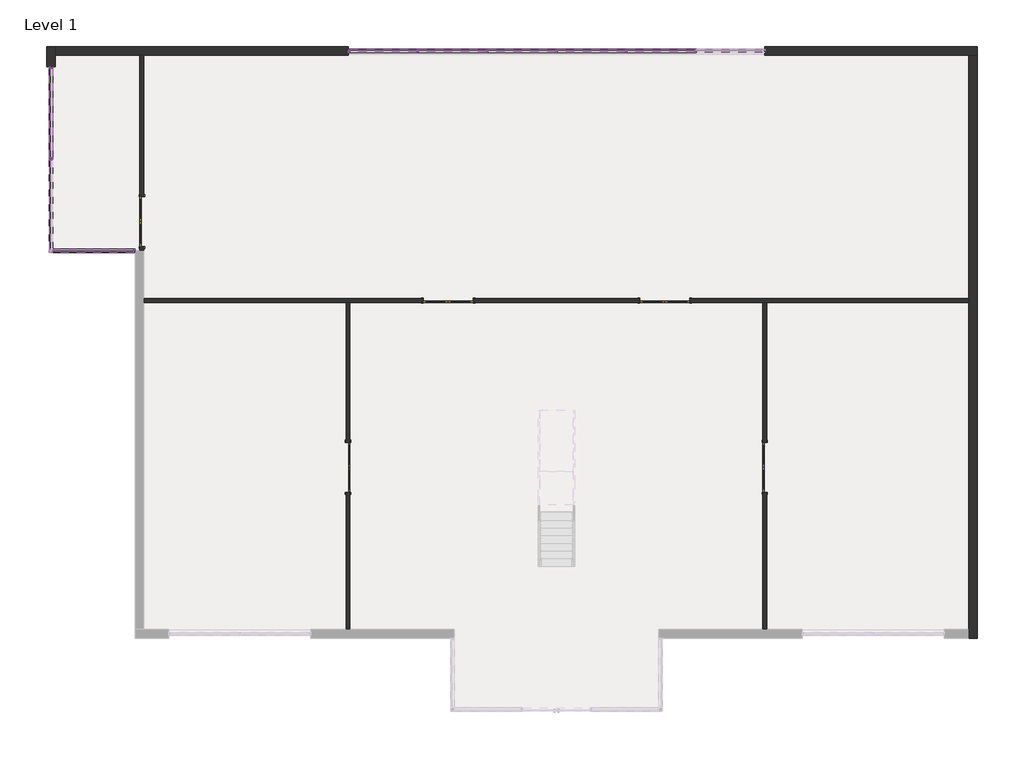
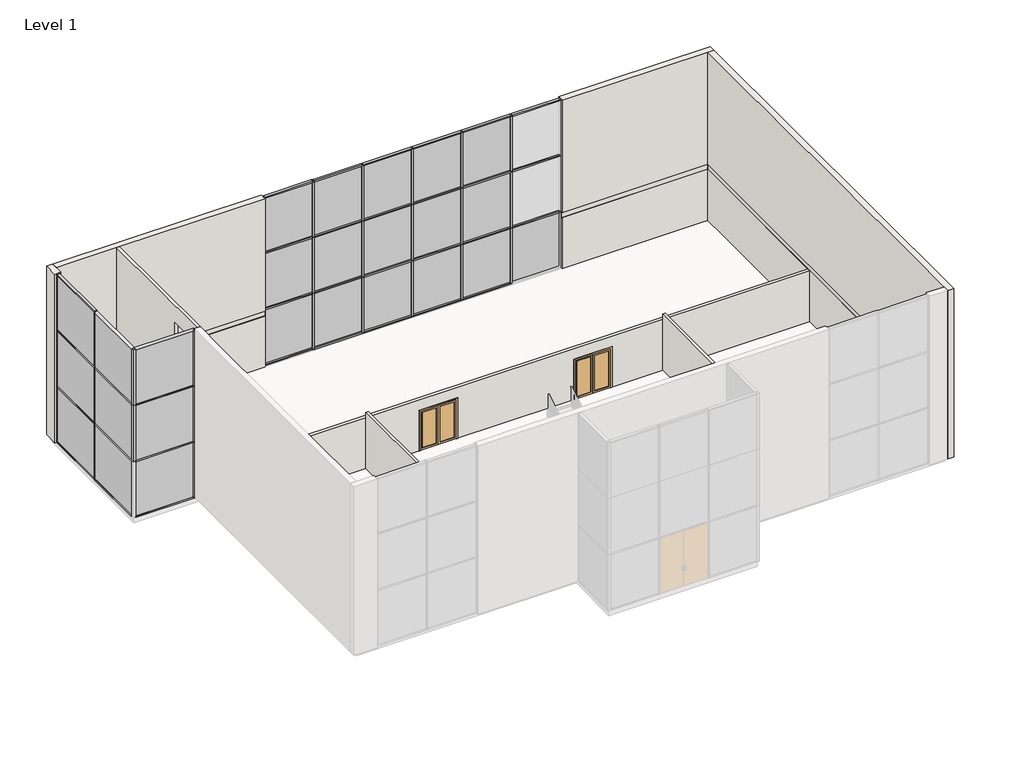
# One storey, part 2 of 3: 60 members, 25 plates, 7 walls, 5 doors.
"""IFC4 building model written with IfcOpenShell, lengths in millimetres."""

from ifc_helpers import new_model, si_unit, frame, origin, place, context, project, spatial, polyline, outline, extrude, faceted_brep, transform, mapped, element, save
from components import door_cb31edf2, door_3f2f997e, member_092dde94, member_3f395ae9, member_65a3e7b2, member_eaba9652, member_4955b6a0, member_9c76a069, member_1f84ea9c, member_2d82c926, member_728bf22d, member_0c17b8a1, member_268c476f, system_panel_glazed_e83c8d5a, system_panel_glazed_b0f97b96, system_panel_glazed_f5e36016, system_panel_glazed_d42ca814, system_panel_glazed_c65d631f, system_panel_glazed_26911bd7, system_panel_glazed_bd540f61, system_panel_glazed_3bf1a00e

model = new_model("IFC4")

# Units and contexts
model_context = context("Model", 3, world=origin())
ifc_project = project(units=[si_unit("LENGTHUNIT", "METRE", prefix="MILLI")], contexts=[model_context])

# Site, building, storey
site = spatial("IfcSite", under=ifc_project)
building = spatial("IfcBuilding", under=site)
storey = spatial("IfcBuildingStorey", under=building, Name="Level 1", Elevation=0.0)

# Doors
placement = place(None, origin())
door_shape = door_cb31edf2(model_context)
element("IfcDoor", 1, ObjectType="Door-Double-Glass : 72\" x 84\"", at=placement, inside=storey, context=model_context, shape_type="MappedRepresentation", body=[
    mapped(door_shape, transform((-18248.748632, 9505.1983604, 0.0), x_axis=(0.0, 1.0, 0.0), y_axis=(-1.0, 0.0, 0.0), z_axis=(0.0, 0.0, 1.0))),
])
door_2_shape = door_3f2f997e(model_context)
element("IfcDoor", 2, ObjectType="Door-Double-Glass : 72\" x 84\"", at=placement, inside=storey, context=model_context, shape_type="MappedRepresentation", body=[
    mapped(door_2_shape, transform((-10711.298632, 513.5983604, 0.0), x_axis=(0.0, -1.0, 0.0), y_axis=(1.0, 0.0, 0.0), z_axis=(0.0, 0.0, 1.0))),
])
element("IfcDoor", 3, ObjectType="Door-Double-Glass : 72\" x 84\"", at=placement, inside=storey, context=model_context, shape_type="MappedRepresentation", body=[
    mapped(door_2_shape, transform((4533.463868, 513.5983604, 0.0), x_axis=(0.0, 1.0, 0.0), y_axis=(-1.0, 0.0, 0.0), z_axis=(0.0, 0.0, 1.0))),
])
element("IfcDoor", 4, ObjectType="Door-Double-Glass : 72\" x 84\"", at=placement, inside=storey, context=model_context, shape_type="MappedRepresentation", body=[
    mapped(door_2_shape, transform((-7051.317382, 6611.9796104, 0.0), x_axis=(-1.0, 0.0, 0.0), y_axis=(0.0, -1.0, 0.0), z_axis=(0.0, 0.0, 1.0))),
])
element("IfcDoor", 5, ObjectType="Door-Double-Glass : 72\" x 84\"", at=placement, inside=storey, context=model_context, shape_type="MappedRepresentation", body=[
    mapped(door_2_shape, transform((873.482618, 6611.9796104, 0.0), x_axis=(-1.0, 0.0, 0.0), y_axis=(0.0, -1.0, 0.0), z_axis=(0.0, 0.0, 1.0))),
])

# Members
member_shape = member_092dde94(model_context)
element("IfcMember", 6, ObjectType="Quad Corner Mullion : 5\" x 5\" Quad Corner", at=placement, inside=storey, context=model_context, shape_type="MappedRepresentation", body=[
    mapped(member_shape, transform((-21580.117382, 8438.3983604, 3048.0), x_axis=(-1.0, 0.0, 0.0), y_axis=(0.0, 1.0, 0.0), z_axis=(0.0, 0.0, -1.0))),
])
element("IfcMember", 7, ObjectType="Quad Corner Mullion : 5\" x 5\" Quad Corner", at=placement, inside=storey, context=model_context, shape_type="MappedRepresentation", body=[
    mapped(member_shape, transform((-21580.117382, 8438.3983604, 6096.0), x_axis=(-1.0, 0.0, 0.0), y_axis=(0.0, 1.0, 0.0), z_axis=(0.0, 0.0, -1.0))),
])
member_2_shape = member_3f395ae9(model_context)
element("IfcMember", 8, ObjectType="Rectangular Mullion : 2.5\" x 5\" rectangular", at=placement, inside=storey, context=model_context, shape_type="MappedRepresentation", body=[
    mapped(member_2_shape, transform((-18484.492382, 8438.3983604, 9144.0), x_axis=(1.0, 0.0, 0.0), y_axis=(0.0, 1.0, 0.0), z_axis=(0.0, 0.0, 1.0))),
])
element("IfcMember", 9, ObjectType="Rectangular Mullion : 2.5\" x 5\" rectangular", at=placement, inside=storey, context=model_context, shape_type="MappedRepresentation", body=[
    mapped(member_2_shape, transform((-18484.492382, 8438.3983604, 3048.0), x_axis=(1.0, 0.0, 0.0), y_axis=(0.0, 1.0, 0.0), z_axis=(0.0, 0.0, 1.0))),
])
member_3_shape = member_65a3e7b2(model_context)
element("IfcMember", 10, ObjectType="Rectangular Mullion : 2.5\" x 5\" rectangular", at=placement, inside=storey, context=model_context, shape_type="MappedRepresentation", body=[
    mapped(member_3_shape, transform((-10645.417382, 15753.5983604, 9144.0), x_axis=(0.0, 0.0, 1.0), y_axis=(0.0, 1.0, 0.0), z_axis=(-1.0, 0.0, 0.0))),
])
element("IfcMember", 11, ObjectType="Rectangular Mullion : 2.5\" x 5\" rectangular", at=placement, inside=storey, context=model_context, shape_type="MappedRepresentation", body=[
    mapped(member_3_shape, transform((2022.8326178, 15753.5983604, 9144.0), x_axis=(0.0, 0.0, 1.0), y_axis=(0.0, 1.0, 0.0), z_axis=(-1.0, 0.0, 0.0))),
])
element("IfcMember", 12, ObjectType="Rectangular Mullion : 2.5\" x 5\" rectangular", at=placement, inside=storey, context=model_context, shape_type="MappedRepresentation", body=[
    mapped(member_3_shape, transform((-8200.6673818, 15753.5983604, 0.0), x_axis=(0.0, 0.0, -1.0), y_axis=(0.0, 1.0, 0.0), z_axis=(1.0, 0.0, 0.0))),
])
member_4_shape = member_eaba9652(model_context)
element("IfcMember", 13, ObjectType="Rectangular Mullion : 2.5\" x 5\" rectangular", at=placement, inside=storey, context=model_context, shape_type="MappedRepresentation", body=[
    mapped(member_4_shape, transform((1991.0826178, 15753.5983604, 0.0), x_axis=(-1.0, 0.0, 0.0), y_axis=(0.0, 1.0, 0.0), z_axis=(0.0, 0.0, -1.0))),
])
element("IfcMember", 14, ObjectType="Rectangular Mullion : 2.5\" x 5\" rectangular", at=placement, inside=storey, context=model_context, shape_type="MappedRepresentation", body=[
    mapped(member_4_shape, transform((-548.9173821, 15753.5983604, 0.0), x_axis=(-1.0, 0.0, 0.0), y_axis=(0.0, 1.0, 0.0), z_axis=(0.0, 0.0, -1.0))),
])
element("IfcMember", 15, ObjectType="Rectangular Mullion : 2.5\" x 5\" rectangular", at=placement, inside=storey, context=model_context, shape_type="MappedRepresentation", body=[
    mapped(member_4_shape, transform((-3088.917382, 15753.5983604, 0.0), x_axis=(-1.0, 0.0, 0.0), y_axis=(0.0, 1.0, 0.0), z_axis=(0.0, 0.0, -1.0))),
])
element("IfcMember", 16, ObjectType="Rectangular Mullion : 2.5\" x 5\" rectangular", at=placement, inside=storey, context=model_context, shape_type="MappedRepresentation", body=[
    mapped(member_4_shape, transform((-5628.9173819, 15753.5983604, 0.0), x_axis=(-1.0, 0.0, 0.0), y_axis=(0.0, 1.0, 0.0), z_axis=(0.0, 0.0, -1.0))),
])
element("IfcMember", 17, ObjectType="Rectangular Mullion : 2.5\" x 5\" rectangular", at=placement, inside=storey, context=model_context, shape_type="MappedRepresentation", body=[
    mapped(member_4_shape, transform((-8168.9173818, 15753.5983604, 0.0), x_axis=(-1.0, 0.0, 0.0), y_axis=(0.0, 1.0, 0.0), z_axis=(0.0, 0.0, -1.0))),
])
element("IfcMember", 18, ObjectType="Rectangular Mullion : 2.5\" x 5\" rectangular", at=placement, inside=storey, context=model_context, shape_type="MappedRepresentation", body=[
    mapped(member_4_shape, transform((-21580.117382, 11807.0733604, 0.0), x_axis=(0.0, -1.0, 0.0), y_axis=(-1.0, 0.0, 0.0), z_axis=(0.0, 0.0, -1.0))),
])
member_5_shape = member_4955b6a0(model_context)
element("IfcMember", 19, ObjectType="Rectangular Mullion : 2.5\" x 5\" rectangular", at=placement, inside=storey, context=model_context, shape_type="MappedRepresentation", body=[
    mapped(member_5_shape, transform((2022.8326178, 15753.5983604, 3048.0), x_axis=(0.0, 0.0, 1.0), y_axis=(0.0, 1.0, 0.0), z_axis=(-1.0, 0.0, 0.0))),
])
element("IfcMember", 20, ObjectType="Rectangular Mullion : 2.5\" x 5\" rectangular", at=placement, inside=storey, context=model_context, shape_type="MappedRepresentation", body=[
    mapped(member_5_shape, transform((-10645.417382, 15753.5983604, 3048.0), x_axis=(0.0, 0.0, 1.0), y_axis=(0.0, 1.0, 0.0), z_axis=(-1.0, 0.0, 0.0))),
])
element("IfcMember", 21, ObjectType="Rectangular Mullion : 2.5\" x 5\" rectangular", at=placement, inside=storey, context=model_context, shape_type="MappedRepresentation", body=[
    mapped(member_5_shape, transform((2022.8326178, 15753.5983604, 6096.0), x_axis=(0.0, 0.0, 1.0), y_axis=(0.0, 1.0, 0.0), z_axis=(-1.0, 0.0, 0.0))),
])
element("IfcMember", 22, ObjectType="Rectangular Mullion : 2.5\" x 5\" rectangular", at=placement, inside=storey, context=model_context, shape_type="MappedRepresentation", body=[
    mapped(member_5_shape, transform((-10645.417382, 15753.5983604, 6096.0), x_axis=(0.0, 0.0, 1.0), y_axis=(0.0, 1.0, 0.0), z_axis=(-1.0, 0.0, 0.0))),
])
member_6_shape = member_9c76a069(model_context)
element("IfcMember", 23, ObjectType="Rectangular Mullion : 2.5\" x 5\" rectangular", at=placement, inside=storey, context=model_context, shape_type="MappedRepresentation", body=[
    mapped(member_6_shape, transform((-517.1673821, 15753.5983604, 3048.0), x_axis=(0.0, 0.0, 1.0), y_axis=(0.0, 1.0, 0.0), z_axis=(-1.0, 0.0, 0.0))),
])
element("IfcMember", 24, ObjectType="Rectangular Mullion : 2.5\" x 5\" rectangular", at=placement, inside=storey, context=model_context, shape_type="MappedRepresentation", body=[
    mapped(member_6_shape, transform((-3057.167382, 15753.5983604, 3048.0), x_axis=(0.0, 0.0, 1.0), y_axis=(0.0, 1.0, 0.0), z_axis=(-1.0, 0.0, 0.0))),
])
element("IfcMember", 25, ObjectType="Rectangular Mullion : 2.5\" x 5\" rectangular", at=placement, inside=storey, context=model_context, shape_type="MappedRepresentation", body=[
    mapped(member_6_shape, transform((-5597.1673819, 15753.5983604, 3048.0), x_axis=(0.0, 0.0, 1.0), y_axis=(0.0, 1.0, 0.0), z_axis=(-1.0, 0.0, 0.0))),
])
element("IfcMember", 26, ObjectType="Rectangular Mullion : 2.5\" x 5\" rectangular", at=placement, inside=storey, context=model_context, shape_type="MappedRepresentation", body=[
    mapped(member_6_shape, transform((-8137.1673818, 15753.5983604, 3048.0), x_axis=(0.0, 0.0, 1.0), y_axis=(0.0, 1.0, 0.0), z_axis=(-1.0, 0.0, 0.0))),
])
element("IfcMember", 27, ObjectType="Rectangular Mullion : 2.5\" x 5\" rectangular", at=placement, inside=storey, context=model_context, shape_type="MappedRepresentation", body=[
    mapped(member_6_shape, transform((-517.1673821, 15753.5983604, 6096.0), x_axis=(0.0, 0.0, 1.0), y_axis=(0.0, 1.0, 0.0), z_axis=(-1.0, 0.0, 0.0))),
])
element("IfcMember", 28, ObjectType="Rectangular Mullion : 2.5\" x 5\" rectangular", at=placement, inside=storey, context=model_context, shape_type="MappedRepresentation", body=[
    mapped(member_6_shape, transform((-3057.167382, 15753.5983604, 6096.0), x_axis=(0.0, 0.0, 1.0), y_axis=(0.0, 1.0, 0.0), z_axis=(-1.0, 0.0, 0.0))),
])
element("IfcMember", 29, ObjectType="Rectangular Mullion : 2.5\" x 5\" rectangular", at=placement, inside=storey, context=model_context, shape_type="MappedRepresentation", body=[
    mapped(member_6_shape, transform((-5597.1673819, 15753.5983604, 6096.0), x_axis=(0.0, 0.0, 1.0), y_axis=(0.0, 1.0, 0.0), z_axis=(-1.0, 0.0, 0.0))),
])
element("IfcMember", 30, ObjectType="Rectangular Mullion : 2.5\" x 5\" rectangular", at=placement, inside=storey, context=model_context, shape_type="MappedRepresentation", body=[
    mapped(member_6_shape, transform((-8137.1673818, 15753.5983604, 6096.0), x_axis=(0.0, 0.0, 1.0), y_axis=(0.0, 1.0, 0.0), z_axis=(-1.0, 0.0, 0.0))),
])
member_7_shape = member_1f84ea9c(model_context)
element("IfcMember", 31, ObjectType="Rectangular Mullion : 2.5\" x 5\" rectangular", at=placement, inside=storey, context=model_context, shape_type="MappedRepresentation", body=[
    mapped(member_7_shape, transform((1959.3326178, 15753.5983604, 0.0), x_axis=(0.0, 0.0, -1.0), y_axis=(0.0, 1.0, 0.0), z_axis=(1.0, 0.0, 0.0))),
])
element("IfcMember", 32, ObjectType="Rectangular Mullion : 2.5\" x 5\" rectangular", at=placement, inside=storey, context=model_context, shape_type="MappedRepresentation", body=[
    mapped(member_7_shape, transform((-580.6673821, 15753.5983604, 0.0), x_axis=(0.0, 0.0, -1.0), y_axis=(0.0, 1.0, 0.0), z_axis=(1.0, 0.0, 0.0))),
])
element("IfcMember", 33, ObjectType="Rectangular Mullion : 2.5\" x 5\" rectangular", at=placement, inside=storey, context=model_context, shape_type="MappedRepresentation", body=[
    mapped(member_7_shape, transform((-3120.667382, 15753.5983604, 0.0), x_axis=(0.0, 0.0, -1.0), y_axis=(0.0, 1.0, 0.0), z_axis=(1.0, 0.0, 0.0))),
])
element("IfcMember", 34, ObjectType="Rectangular Mullion : 2.5\" x 5\" rectangular", at=placement, inside=storey, context=model_context, shape_type="MappedRepresentation", body=[
    mapped(member_7_shape, transform((-5660.6673819, 15753.5983604, 0.0), x_axis=(0.0, 0.0, -1.0), y_axis=(0.0, 1.0, 0.0), z_axis=(1.0, 0.0, 0.0))),
])
element("IfcMember", 35, ObjectType="Rectangular Mullion : 2.5\" x 5\" rectangular", at=placement, inside=storey, context=model_context, shape_type="MappedRepresentation", body=[
    mapped(member_7_shape, transform((-517.1673821, 15753.5983604, 9144.0), x_axis=(0.0, 0.0, 1.0), y_axis=(0.0, 1.0, 0.0), z_axis=(-1.0, 0.0, 0.0))),
])
element("IfcMember", 36, ObjectType="Rectangular Mullion : 2.5\" x 5\" rectangular", at=placement, inside=storey, context=model_context, shape_type="MappedRepresentation", body=[
    mapped(member_7_shape, transform((-3057.167382, 15753.5983604, 9144.0), x_axis=(0.0, 0.0, 1.0), y_axis=(0.0, 1.0, 0.0), z_axis=(-1.0, 0.0, 0.0))),
])
element("IfcMember", 37, ObjectType="Rectangular Mullion : 2.5\" x 5\" rectangular", at=placement, inside=storey, context=model_context, shape_type="MappedRepresentation", body=[
    mapped(member_7_shape, transform((-5597.1673819, 15753.5983604, 9144.0), x_axis=(0.0, 0.0, 1.0), y_axis=(0.0, 1.0, 0.0), z_axis=(-1.0, 0.0, 0.0))),
])
element("IfcMember", 38, ObjectType="Rectangular Mullion : 2.5\" x 5\" rectangular", at=placement, inside=storey, context=model_context, shape_type="MappedRepresentation", body=[
    mapped(member_7_shape, transform((-8137.1673818, 15753.5983604, 9144.0), x_axis=(0.0, 0.0, 1.0), y_axis=(0.0, 1.0, 0.0), z_axis=(-1.0, 0.0, 0.0))),
])
element("IfcMember", 39, ObjectType="Rectangular Mullion : 2.5\" x 5\" rectangular", at=placement, inside=storey, context=model_context, shape_type="MappedRepresentation", body=[
    mapped(member_4_shape, transform((1991.0826178, 15753.5983604, 3048.0), x_axis=(-1.0, 0.0, 0.0), y_axis=(0.0, 1.0, 0.0), z_axis=(0.0, 0.0, -1.0))),
])
element("IfcMember", 40, ObjectType="Rectangular Mullion : 2.5\" x 5\" rectangular", at=placement, inside=storey, context=model_context, shape_type="MappedRepresentation", body=[
    mapped(member_4_shape, transform((-548.9173821, 15753.5983604, 3048.0), x_axis=(-1.0, 0.0, 0.0), y_axis=(0.0, 1.0, 0.0), z_axis=(0.0, 0.0, -1.0))),
])
element("IfcMember", 41, ObjectType="Rectangular Mullion : 2.5\" x 5\" rectangular", at=placement, inside=storey, context=model_context, shape_type="MappedRepresentation", body=[
    mapped(member_4_shape, transform((-3088.917382, 15753.5983604, 3048.0), x_axis=(-1.0, 0.0, 0.0), y_axis=(0.0, 1.0, 0.0), z_axis=(0.0, 0.0, -1.0))),
])
element("IfcMember", 42, ObjectType="Rectangular Mullion : 2.5\" x 5\" rectangular", at=placement, inside=storey, context=model_context, shape_type="MappedRepresentation", body=[
    mapped(member_4_shape, transform((-5628.9173819, 15753.5983604, 3048.0), x_axis=(-1.0, 0.0, 0.0), y_axis=(0.0, 1.0, 0.0), z_axis=(0.0, 0.0, -1.0))),
])
element("IfcMember", 43, ObjectType="Rectangular Mullion : 2.5\" x 5\" rectangular", at=placement, inside=storey, context=model_context, shape_type="MappedRepresentation", body=[
    mapped(member_4_shape, transform((-8168.9173818, 15753.5983604, 3048.0), x_axis=(-1.0, 0.0, 0.0), y_axis=(0.0, 1.0, 0.0), z_axis=(0.0, 0.0, -1.0))),
])
element("IfcMember", 44, ObjectType="Rectangular Mullion : 2.5\" x 5\" rectangular", at=placement, inside=storey, context=model_context, shape_type="MappedRepresentation", body=[
    mapped(member_4_shape, transform((-21580.117382, 11807.0733604, 3048.0), x_axis=(0.0, -1.0, 0.0), y_axis=(-1.0, 0.0, 0.0), z_axis=(0.0, 0.0, -1.0))),
])
element("IfcMember", 45, ObjectType="Rectangular Mullion : 2.5\" x 5\" rectangular", at=placement, inside=storey, context=model_context, shape_type="MappedRepresentation", body=[
    mapped(member_4_shape, transform((1991.0826178, 15753.5983604, 6096.0), x_axis=(-1.0, 0.0, 0.0), y_axis=(0.0, 1.0, 0.0), z_axis=(0.0, 0.0, -1.0))),
])
element("IfcMember", 46, ObjectType="Rectangular Mullion : 2.5\" x 5\" rectangular", at=placement, inside=storey, context=model_context, shape_type="MappedRepresentation", body=[
    mapped(member_4_shape, transform((-548.9173821, 15753.5983604, 6096.0), x_axis=(-1.0, 0.0, 0.0), y_axis=(0.0, 1.0, 0.0), z_axis=(0.0, 0.0, -1.0))),
])
element("IfcMember", 47, ObjectType="Rectangular Mullion : 2.5\" x 5\" rectangular", at=placement, inside=storey, context=model_context, shape_type="MappedRepresentation", body=[
    mapped(member_4_shape, transform((-3088.917382, 15753.5983604, 6096.0), x_axis=(-1.0, 0.0, 0.0), y_axis=(0.0, 1.0, 0.0), z_axis=(0.0, 0.0, -1.0))),
])
element("IfcMember", 48, ObjectType="Rectangular Mullion : 2.5\" x 5\" rectangular", at=placement, inside=storey, context=model_context, shape_type="MappedRepresentation", body=[
    mapped(member_4_shape, transform((-5628.9173819, 15753.5983604, 6096.0), x_axis=(-1.0, 0.0, 0.0), y_axis=(0.0, 1.0, 0.0), z_axis=(0.0, 0.0, -1.0))),
])
element("IfcMember", 49, ObjectType="Rectangular Mullion : 2.5\" x 5\" rectangular", at=placement, inside=storey, context=model_context, shape_type="MappedRepresentation", body=[
    mapped(member_4_shape, transform((-8168.9173818, 15753.5983604, 6096.0), x_axis=(-1.0, 0.0, 0.0), y_axis=(0.0, 1.0, 0.0), z_axis=(0.0, 0.0, -1.0))),
])
element("IfcMember", 50, ObjectType="Rectangular Mullion : 2.5\" x 5\" rectangular", at=placement, inside=storey, context=model_context, shape_type="MappedRepresentation", body=[
    mapped(member_4_shape, transform((-21580.117382, 11807.0733604, 6096.0), x_axis=(0.0, -1.0, 0.0), y_axis=(-1.0, 0.0, 0.0), z_axis=(0.0, 0.0, -1.0))),
])
element("IfcMember", 51, ObjectType="Rectangular Mullion : 2.5\" x 5\" rectangular", at=placement, inside=storey, context=model_context, shape_type="MappedRepresentation", body=[
    mapped(member_2_shape, transform((-21580.117382, 15175.7483604, 9144.0), x_axis=(0.0, 1.0, 0.0), y_axis=(-1.0, 0.0, 0.0), z_axis=(0.0, 0.0, 1.0))),
])
element("IfcMember", 52, ObjectType="Rectangular Mullion : 2.5\" x 5\" rectangular", at=placement, inside=storey, context=model_context, shape_type="MappedRepresentation", body=[
    mapped(member_2_shape, transform((-10708.917382, 15753.5983604, 0.0), x_axis=(-1.0, 0.0, 0.0), y_axis=(0.0, 1.0, 0.0), z_axis=(0.0, 0.0, -1.0))),
])
element("IfcMember", 53, ObjectType="Rectangular Mullion : 2.5\" x 5\" rectangular", at=placement, inside=storey, context=model_context, shape_type="MappedRepresentation", body=[
    mapped(member_2_shape, transform((-10708.917382, 15753.5983604, 3048.0), x_axis=(-1.0, 0.0, 0.0), y_axis=(0.0, 1.0, 0.0), z_axis=(0.0, 0.0, -1.0))),
])
element("IfcMember", 54, ObjectType="Rectangular Mullion : 2.5\" x 5\" rectangular", at=placement, inside=storey, context=model_context, shape_type="MappedRepresentation", body=[
    mapped(member_2_shape, transform((-10708.917382, 15753.5983604, 6096.0), x_axis=(-1.0, 0.0, 0.0), y_axis=(0.0, 1.0, 0.0), z_axis=(0.0, 0.0, -1.0))),
])
element("IfcMember", 55, ObjectType="Rectangular Mullion : 2.5\" x 5\" rectangular", at=placement, inside=storey, context=model_context, shape_type="MappedRepresentation", body=[
    mapped(member_2_shape, transform((-21580.117382, 15175.7483604, 3048.0), x_axis=(0.0, 1.0, 0.0), y_axis=(-1.0, 0.0, 0.0), z_axis=(0.0, 0.0, 1.0))),
])
element("IfcMember", 56, ObjectType="Rectangular Mullion : 2.5\" x 5\" rectangular", at=placement, inside=storey, context=model_context, shape_type="MappedRepresentation", body=[
    mapped(member_2_shape, transform((-21580.117382, 15175.7483604, 6096.0), x_axis=(0.0, 1.0, 0.0), y_axis=(-1.0, 0.0, 0.0), z_axis=(0.0, 0.0, 1.0))),
])
element("IfcMember", 57, ObjectType="Rectangular Mullion : 2.5\" x 5\" rectangular", at=placement, inside=storey, context=model_context, shape_type="MappedRepresentation", body=[
    mapped(member_2_shape, transform((-18484.492382, 8438.3983604, 6096.0), x_axis=(1.0, 0.0, 0.0), y_axis=(0.0, 1.0, 0.0), z_axis=(0.0, 0.0, 1.0))),
])
member_8_shape = member_2d82c926(model_context)
element("IfcMember", 58, ObjectType="Rectangular Mullion : 2.5\" x 5\" rectangular", at=placement, inside=storey, context=model_context, shape_type="MappedRepresentation", body=[
    mapped(member_8_shape, transform((-21580.117382, 11838.8233604, 9144.0), x_axis=(0.0, 0.0, 1.0), y_axis=(-1.0, 0.0, 0.0), z_axis=(0.0, -1.0, 0.0))),
])
element("IfcMember", 59, ObjectType="Rectangular Mullion : 2.5\" x 5\" rectangular", at=placement, inside=storey, context=model_context, shape_type="MappedRepresentation", body=[
    mapped(member_8_shape, transform((-21580.117382, 15112.2483604, 0.0), x_axis=(0.0, 0.0, -1.0), y_axis=(-1.0, 0.0, 0.0), z_axis=(0.0, 1.0, 0.0))),
])
element("IfcMember", 60, ObjectType="Rectangular Mullion : 2.5\" x 5\" rectangular", at=placement, inside=storey, context=model_context, shape_type="MappedRepresentation", body=[
    mapped(member_8_shape, transform((-21580.117382, 11775.3233604, 0.0), x_axis=(0.0, 0.0, -1.0), y_axis=(-1.0, 0.0, 0.0), z_axis=(0.0, 1.0, 0.0))),
])
member_9_shape = member_728bf22d(model_context)
element("IfcMember", 61, ObjectType="Rectangular Mullion : 2.5\" x 5\" rectangular", at=placement, inside=storey, context=model_context, shape_type="MappedRepresentation", body=[
    mapped(member_9_shape, transform((-21580.117382, 11838.8233604, 3048.0), x_axis=(0.0, 0.0, 1.0), y_axis=(-1.0, 0.0, 0.0), z_axis=(0.0, -1.0, 0.0))),
])
element("IfcMember", 62, ObjectType="Rectangular Mullion : 2.5\" x 5\" rectangular", at=placement, inside=storey, context=model_context, shape_type="MappedRepresentation", body=[
    mapped(member_9_shape, transform((-21580.117382, 11838.8233604, 6096.0), x_axis=(0.0, 0.0, 1.0), y_axis=(-1.0, 0.0, 0.0), z_axis=(0.0, -1.0, 0.0))),
])
member_10_shape = member_0c17b8a1(model_context)
element("IfcMember", 63, ObjectType="Rectangular Mullion : 2.5\" x 5\" rectangular", at=placement, inside=storey, context=model_context, shape_type="MappedRepresentation", body=[
    mapped(member_10_shape, transform((-18547.992382, 8438.3983604, 0.0), x_axis=(0.0, 0.0, -1.0), y_axis=(0.0, 1.0, 0.0), z_axis=(1.0, 0.0, 0.0))),
])
member_11_shape = member_268c476f(model_context)
element("IfcMember", 64, ObjectType="Rectangular Mullion : 2.5\" x 5\" rectangular", at=placement, inside=storey, context=model_context, shape_type="MappedRepresentation", body=[
    mapped(member_11_shape, transform((-21516.617382, 8438.3983604, 3048.0), x_axis=(0.0, 0.0, 1.0), y_axis=(0.0, 1.0, 0.0), z_axis=(-1.0, 0.0, 0.0))),
])
element("IfcMember", 65, ObjectType="Rectangular Mullion : 2.5\" x 5\" rectangular", at=placement, inside=storey, context=model_context, shape_type="MappedRepresentation", body=[
    mapped(member_11_shape, transform((-21516.617382, 8438.3983604, 6096.0), x_axis=(0.0, 0.0, 1.0), y_axis=(0.0, 1.0, 0.0), z_axis=(-1.0, 0.0, 0.0))),
])

# Plates
system_panel_glazed_shape = system_panel_glazed_e83c8d5a(model_context)
element("IfcPlate", 66, ObjectType="System Panel : Glazed", at=placement, inside=storey, context=model_context, shape_type="MappedRepresentation", body=[
    mapped(system_panel_glazed_shape, transform((3245.2076179, 15753.5983604, 63.5), x_axis=(-1.0, 0.0, 0.0), y_axis=(0.0, -1.0, 0.0), z_axis=(0.0, 0.0, 1.0))),
])
element("IfcPlate", 67, ObjectType="System Panel : Glazed", at=placement, inside=storey, context=model_context, shape_type="MappedRepresentation", body=[
    mapped(system_panel_glazed_shape, transform((-9423.0423819, 15753.5983604, 63.5), x_axis=(-1.0, 0.0, 0.0), y_axis=(0.0, -1.0, 0.0), z_axis=(0.0, 0.0, 1.0))),
])
element("IfcPlate", 68, ObjectType="System Panel : Glazed", at=placement, inside=storey, context=model_context, shape_type="MappedRepresentation", body=[
    mapped(system_panel_glazed_shape, transform((-9423.0423819, 15753.5983604, 6127.75), x_axis=(-1.0, 0.0, 0.0), y_axis=(0.0, -1.0, 0.0), z_axis=(0.0, 0.0, 1.0))),
])
system_panel_glazed_2_shape = system_panel_glazed_b0f97b96(model_context)
element("IfcPlate", 69, ObjectType="System Panel : Glazed", at=placement, inside=storey, context=model_context, shape_type="MappedRepresentation", body=[
    mapped(system_panel_glazed_2_shape, transform((721.0826179, 15753.5983604, 63.5), x_axis=(-1.0, 0.0, 0.0), y_axis=(0.0, -1.0, 0.0), z_axis=(0.0, 0.0, 1.0))),
])
element("IfcPlate", 70, ObjectType="System Panel : Glazed", at=placement, inside=storey, context=model_context, shape_type="MappedRepresentation", body=[
    mapped(system_panel_glazed_2_shape, transform((-1818.917382, 15753.5983604, 63.5), x_axis=(-1.0, 0.0, 0.0), y_axis=(0.0, -1.0, 0.0), z_axis=(0.0, 0.0, 1.0))),
])
element("IfcPlate", 71, ObjectType="System Panel : Glazed", at=placement, inside=storey, context=model_context, shape_type="MappedRepresentation", body=[
    mapped(system_panel_glazed_2_shape, transform((-4358.9173819, 15753.5983604, 63.5), x_axis=(-1.0, 0.0, 0.0), y_axis=(0.0, -1.0, 0.0), z_axis=(0.0, 0.0, 1.0))),
])
element("IfcPlate", 72, ObjectType="System Panel : Glazed", at=placement, inside=storey, context=model_context, shape_type="MappedRepresentation", body=[
    mapped(system_panel_glazed_2_shape, transform((-6898.9173818, 15753.5983604, 63.5), x_axis=(-1.0, 0.0, 0.0), y_axis=(0.0, -1.0, 0.0), z_axis=(0.0, 0.0, 1.0))),
])
element("IfcPlate", 73, ObjectType="System Panel : Glazed", at=placement, inside=storey, context=model_context, shape_type="MappedRepresentation", body=[
    mapped(system_panel_glazed_2_shape, transform((721.0826179, 15753.5983604, 6127.75), x_axis=(-1.0, 0.0, 0.0), y_axis=(0.0, -1.0, 0.0), z_axis=(0.0, 0.0, 1.0))),
])
element("IfcPlate", 74, ObjectType="System Panel : Glazed", at=placement, inside=storey, context=model_context, shape_type="MappedRepresentation", body=[
    mapped(system_panel_glazed_2_shape, transform((-1818.917382, 15753.5983604, 6127.75), x_axis=(-1.0, 0.0, 0.0), y_axis=(0.0, -1.0, 0.0), z_axis=(0.0, 0.0, 1.0))),
])
element("IfcPlate", 75, ObjectType="System Panel : Glazed", at=placement, inside=storey, context=model_context, shape_type="MappedRepresentation", body=[
    mapped(system_panel_glazed_2_shape, transform((-4358.9173819, 15753.5983604, 6127.75), x_axis=(-1.0, 0.0, 0.0), y_axis=(0.0, -1.0, 0.0), z_axis=(0.0, 0.0, 1.0))),
])
element("IfcPlate", 76, ObjectType="System Panel : Glazed", at=placement, inside=storey, context=model_context, shape_type="MappedRepresentation", body=[
    mapped(system_panel_glazed_2_shape, transform((-6898.9173818, 15753.5983604, 6127.75), x_axis=(-1.0, 0.0, 0.0), y_axis=(0.0, -1.0, 0.0), z_axis=(0.0, 0.0, 1.0))),
])
system_panel_glazed_3_shape = system_panel_glazed_f5e36016(model_context)
element("IfcPlate", 77, ObjectType="System Panel : Glazed", at=placement, inside=storey, context=model_context, shape_type="MappedRepresentation", body=[
    mapped(system_panel_glazed_3_shape, transform((-9423.0423819, 15753.5983604, 3079.75), x_axis=(-1.0, 0.0, 0.0), y_axis=(0.0, -1.0, 0.0), z_axis=(0.0, 0.0, 1.0))),
])
system_panel_glazed_4_shape = system_panel_glazed_d42ca814(model_context)
element("IfcPlate", 78, ObjectType="System Panel : Glazed", at=placement, inside=storey, context=model_context, shape_type="MappedRepresentation", body=[
    mapped(system_panel_glazed_4_shape, transform((721.0826179, 15753.5983604, 3079.75), x_axis=(-1.0, 0.0, 0.0), y_axis=(0.0, -1.0, 0.0), z_axis=(0.0, 0.0, 1.0))),
])
element("IfcPlate", 79, ObjectType="System Panel : Glazed", at=placement, inside=storey, context=model_context, shape_type="MappedRepresentation", body=[
    mapped(system_panel_glazed_4_shape, transform((-1818.917382, 15753.5983604, 3079.75), x_axis=(-1.0, 0.0, 0.0), y_axis=(0.0, -1.0, 0.0), z_axis=(0.0, 0.0, 1.0))),
])
element("IfcPlate", 80, ObjectType="System Panel : Glazed", at=placement, inside=storey, context=model_context, shape_type="MappedRepresentation", body=[
    mapped(system_panel_glazed_4_shape, transform((-4358.9173819, 15753.5983604, 3079.75), x_axis=(-1.0, 0.0, 0.0), y_axis=(0.0, -1.0, 0.0), z_axis=(0.0, 0.0, 1.0))),
])
element("IfcPlate", 81, ObjectType="System Panel : Glazed", at=placement, inside=storey, context=model_context, shape_type="MappedRepresentation", body=[
    mapped(system_panel_glazed_4_shape, transform((-6898.9173818, 15753.5983604, 3079.75), x_axis=(-1.0, 0.0, 0.0), y_axis=(0.0, -1.0, 0.0), z_axis=(0.0, 0.0, 1.0))),
])
system_panel_glazed_5_shape = system_panel_glazed_c65d631f(model_context)
element("IfcPlate", 82, ObjectType="System Panel : Glazed", at=placement, inside=storey, context=model_context, shape_type="MappedRepresentation", body=[
    mapped(system_panel_glazed_5_shape, transform((-21580.117382, 13475.5358604, 63.5), x_axis=(0.0, -1.0, 0.0), y_axis=(1.0, 0.0, 0.0), z_axis=(0.0, 0.0, 1.0))),
])
element("IfcPlate", 83, ObjectType="System Panel : Glazed", at=placement, inside=storey, context=model_context, shape_type="MappedRepresentation", body=[
    mapped(system_panel_glazed_5_shape, transform((-21580.117382, 13475.5358604, 6127.75), x_axis=(0.0, -1.0, 0.0), y_axis=(1.0, 0.0, 0.0), z_axis=(0.0, 0.0, 1.0))),
])
element("IfcPlate", 84, ObjectType="System Panel : Glazed", at=placement, inside=storey, context=model_context, shape_type="MappedRepresentation", body=[
    mapped(system_panel_glazed_5_shape, transform((-21580.117382, 10138.6108604, 63.5), x_axis=(0.0, -1.0, 0.0), y_axis=(1.0, 0.0, 0.0), z_axis=(0.0, 0.0, 1.0))),
])
element("IfcPlate", 85, ObjectType="System Panel : Glazed", at=placement, inside=storey, context=model_context, shape_type="MappedRepresentation", body=[
    mapped(system_panel_glazed_5_shape, transform((-21580.117382, 10138.6108604, 6127.75), x_axis=(0.0, -1.0, 0.0), y_axis=(1.0, 0.0, 0.0), z_axis=(0.0, 0.0, 1.0))),
])
system_panel_glazed_6_shape = system_panel_glazed_26911bd7(model_context)
element("IfcPlate", 86, ObjectType="System Panel : Glazed", at=placement, inside=storey, context=model_context, shape_type="MappedRepresentation", body=[
    mapped(system_panel_glazed_6_shape, transform((-21580.117382, 13475.5358604, 3079.75), x_axis=(0.0, -1.0, 0.0), y_axis=(1.0, 0.0, 0.0), z_axis=(0.0, 0.0, 1.0))),
])
element("IfcPlate", 87, ObjectType="System Panel : Glazed", at=placement, inside=storey, context=model_context, shape_type="MappedRepresentation", body=[
    mapped(system_panel_glazed_6_shape, transform((-21580.117382, 10138.6108604, 3079.75), x_axis=(0.0, -1.0, 0.0), y_axis=(1.0, 0.0, 0.0), z_axis=(0.0, 0.0, 1.0))),
])
system_panel_glazed_7_shape = system_panel_glazed_bd540f61(model_context)
element("IfcPlate", 88, ObjectType="System Panel : Glazed", at=placement, inside=storey, context=model_context, shape_type="MappedRepresentation", body=[
    mapped(system_panel_glazed_7_shape, transform((-20032.304882, 8438.3983604, 63.5), x_axis=(-1.0, 0.0, 0.0), y_axis=(0.0, -1.0, 0.0), z_axis=(0.0, 0.0, 1.0))),
])
element("IfcPlate", 89, ObjectType="System Panel : Glazed", at=placement, inside=storey, context=model_context, shape_type="MappedRepresentation", body=[
    mapped(system_panel_glazed_7_shape, transform((-20032.304882, 8438.3983604, 6127.75), x_axis=(-1.0, 0.0, 0.0), y_axis=(0.0, -1.0, 0.0), z_axis=(0.0, 0.0, 1.0))),
])
system_panel_glazed_8_shape = system_panel_glazed_3bf1a00e(model_context)
element("IfcPlate", 90, ObjectType="System Panel : Glazed", at=placement, inside=storey, context=model_context, shape_type="MappedRepresentation", body=[
    mapped(system_panel_glazed_8_shape, transform((-20032.304882, 8438.3983604, 3079.75), x_axis=(-1.0, 0.0, 0.0), y_axis=(0.0, -1.0, 0.0), z_axis=(0.0, 0.0, 1.0))),
])

# Walls
element("IfcWall", 91, ObjectType="Exterior - EIFS on Mtl. Stud", at=placement, inside=storey, context=model_context, shape_type="Brep", body=[
    faceted_brep([(12306.657618, 15598.0233604, 0.0), (12306.657618, 15598.0233604, 9144.0), (11995.507618, 15598.0233604, 9144.0), (4531.082618, 15598.0233604, 9144.0), (4531.082618, 15598.0233604, 3048.0), (11995.507618, 15598.0233604, 3048.0), (12008.207618, 15598.0233604, 3048.0), (12008.207618, 15598.0233604, 2774.95), (11995.507618, 15598.0233604, 2774.95), (4531.082618, 15598.0233604, 2774.95), (4531.082618, 15598.0233604, 0.0), (11995.507618, 15598.0233604, 0.0), (12306.657618, 15909.1733604, 9144.0), (12306.657618, 15909.1733604, 0.0), (4531.082618, 15909.1733604, 0.0), (4531.082618, 15909.1733604, 9144.0), (4531.082618, 15610.7233604, 2774.95), (4531.082618, 15610.7233604, 3048.0), (12008.207618, 15610.7233604, 2774.95), (12008.207618, 15610.7233604, 3048.0)], [[[0, 1, 2, 3, 4, 5, 6, 7, 8, 9, 10, 11]], [[12, 13, 14, 15]], [[13, 0, 11, 10, 14]], [[1, 12, 15, 3, 2]], [[1, 0, 13, 12]], [[15, 14, 10, 9, 16, 17, 4, 3]], [[18, 16, 9, 8, 7]], [[19, 6, 5, 4, 17]], [[19, 18, 7, 6]], [[18, 19, 17, 16]]]),
    faceted_brep([(-21424.542382, 15598.0233604, 0.0), (-18328.917382, 15598.0233604, 0.0), (-18173.342382, 15598.0233604, 0.0), (-10708.917382, 15598.0233604, 0.0), (-10708.917382, 15598.0233604, 2774.95), (-21424.542382, 15598.0233604, 2774.95), (-10708.917382, 15598.0233604, 9144.0), (-18173.342382, 15598.0233604, 9144.0), (-18328.917382, 15598.0233604, 9144.0), (-21424.542382, 15598.0233604, 9144.0), (-21424.542382, 15598.0233604, 3048.0), (-10708.917382, 15598.0233604, 3048.0), (-10708.917382, 15909.1733604, 0.0), (-21424.542382, 15909.1733604, 0.0), (-21424.542382, 15909.1733604, 9144.0), (-10708.917382, 15909.1733604, 9144.0), (-10708.917382, 15610.7233604, 3048.0), (-10708.917382, 15610.7233604, 2774.95), (-21424.542382, 15610.7233604, 2774.95), (-21424.542382, 15610.7233604, 3048.0)], [[[0, 1, 2, 3, 4, 5]], [[6, 7, 8, 9, 10, 11]], [[12, 13, 14, 15]], [[3, 2, 1, 0, 13, 12]], [[9, 8, 7, 6, 15, 14]], [[12, 15, 6, 11, 16, 17, 4, 3]], [[9, 14, 13, 0, 5, 18, 19, 10]], [[17, 18, 5, 4]], [[19, 16, 11, 10]], [[18, 17, 16, 19]]]),
])
element("IfcWall", 92, ObjectType="Exterior - EIFS on Mtl. Stud", at=placement, inside=storey, context=model_context, shape_type="Brep", body=[
    faceted_brep([(11995.507618, 15598.0233604, 0.0), (11995.507618, 6679.4483604, 0.0), (11995.507618, 6539.7483604, 0.0), (11995.507618, -5426.8266396, 0.0), (11995.507618, -5737.9766396, 0.0), (11995.507618, -5737.9766396, 9144.0), (11995.507618, -5426.8266396, 9144.0), (11995.507618, 6539.7483604, 9144.0), (11995.507618, 6679.4483604, 9144.0), (11995.507618, 15598.0233604, 9144.0), (11995.507618, 15598.0233604, 3048.0), (11995.507618, 6679.4483604, 3048.0), (11995.507618, 6539.7483604, 3048.0), (11995.507618, -5426.8266396, 3048.0), (11995.507618, -5439.5266396, 3048.0), (11995.507618, -5439.5266396, 2774.95), (11995.507618, 6539.7483604, 2774.95), (11995.507618, 6679.4483604, 2774.95), (11995.507618, 15598.0233604, 2774.95), (12306.657618, -5737.9766396, 0.0), (12306.657618, 15598.0233604, 0.0), (12306.657618, 15598.0233604, 9144.0), (12306.657618, -5737.9766396, 9144.0), (12008.207618, 15598.0233604, 2774.95), (12008.207618, 15598.0233604, 3048.0), (12008.207618, -5439.5266396, 2774.95), (12008.207618, -5439.5266396, 3048.0)], [[[0, 1, 2, 3, 4, 5, 6, 7, 8, 9, 10, 11, 12, 13, 14, 15, 16, 17, 18]], [[19, 20, 21, 22]], [[4, 3, 2, 1, 0, 20, 19]], [[9, 8, 7, 6, 5, 22, 21]], [[9, 21, 20, 0, 18, 23, 24, 10]], [[5, 4, 19, 22]], [[15, 25, 23, 18, 17, 16]], [[24, 26, 14, 13, 12, 11, 10]], [[25, 26, 24, 23]], [[26, 25, 15, 14]]]),
])
element("IfcWall", 93, ObjectType="Exterior - EIFS on Mtl. Stud", at=placement, inside=storey, context=model_context, shape_type="Brep", body=[
    faceted_brep([(-21735.692382, 15909.1733604, 0.0), (-21735.692382, 15175.7483604, 0.0), (-21735.692382, 15175.7483604, 9144.0), (-21735.692382, 15909.1733604, 9144.0), (-21424.542382, 15909.1733604, 0.0), (-21424.542382, 15909.1733604, 9144.0), (-21424.542382, 15598.0233604, 9144.0), (-21424.542382, 15175.7483604, 9144.0), (-21424.542382, 15175.7483604, 0.0), (-21424.542382, 15598.0233604, 0.0)], [[[0, 1, 2, 3]], [[4, 5, 6, 7, 8, 9]], [[1, 0, 4, 9, 8]], [[2, 1, 8, 7]], [[3, 2, 7, 6, 5]], [[0, 3, 5, 4]]]),
])
element("IfcWall", 94, ObjectType="Interior - 5 1/2\" Partition (1-hr)", at=placement, inside=storey, context=model_context, shape_type="Brep", body=[
    faceted_brep([(-6136.917382, 6539.7483604, 0.0), (-40.917382, 6539.7483604, 0.0), (-40.917382, 6539.7483604, 2133.6), (1787.882618, 6539.7483604, 2133.6), (1787.882618, 6539.7483604, 0.0), (4461.232618, 6539.7483604, 0.0), (4600.932618, 6539.7483604, 0.0), (11995.507618, 6539.7483604, 0.0), (11995.507618, 6539.7483604, 2774.95), (-18173.342382, 6539.7483604, 2774.95), (-18173.342382, 6539.7483604, 0.0), (-10778.767382, 6539.7483604, 0.0), (-10639.067382, 6539.7483604, 0.0), (-7965.717382, 6539.7483604, 0.0), (-7965.717382, 6539.7483604, 2133.6), (-6136.917382, 6539.7483604, 2133.6), (-40.917382, 6679.4483604, 2133.6), (-40.917382, 6679.4483604, 0.0), (-6136.917382, 6679.4483604, 0.0), (-6136.917382, 6679.4483604, 2133.6), (-7965.717382, 6679.4483604, 2133.6), (-7965.717382, 6679.4483604, 0.0), (-18173.342382, 6679.4483604, 0.0), (-18173.342382, 6679.4483604, 2774.95), (11995.507618, 6679.4483604, 2774.95), (11995.507618, 6679.4483604, 0.0), (1787.882618, 6679.4483604, 0.0), (1787.882618, 6679.4483604, 2133.6)], [[[0, 1, 2, 3, 4, 5, 6, 7, 8, 9, 10, 11, 12, 13, 14, 15]], [[16, 17, 18, 19, 20, 21, 22, 23, 24, 25, 26, 27]], [[22, 21, 13, 12, 11, 10]], [[26, 25, 7, 6, 5, 4]], [[18, 17, 1, 0]], [[8, 7, 25, 24]], [[10, 9, 23, 22]], [[9, 8, 24, 23]], [[14, 13, 21, 20]], [[15, 14, 20, 19]], [[0, 15, 19, 18]], [[2, 1, 17, 16]], [[3, 2, 16, 27]], [[4, 3, 27, 26]]]),
])
element("IfcWall", 95, ObjectType="Interior - 5 1/2\" Partition (1-hr)", at=placement, inside=storey, context=model_context, shape_type="Brep", body=[
    faceted_brep([(4461.232618, 6539.7483604, 0.0), (4461.232618, 1427.9983604, 0.0), (4461.232618, 1427.9983604, 2133.6), (4461.232618, -400.8016396, 2133.6), (4461.232618, -400.8016396, 0.0), (4461.232618, -5426.8266396, 0.0), (4461.232618, -5426.8266396, 3048.0), (4461.232618, -400.8016396, 3048.0), (4461.232618, 1427.9983604, 3048.0), (4461.232618, 6539.7483604, 3048.0), (4600.932618, 1427.9983604, 2133.6), (4600.932618, 1427.9983604, 0.0), (4600.932618, 6539.7483604, 0.0), (4600.932618, 6539.7483604, 3048.0), (4600.932618, 1427.9983604, 3048.0), (4600.932618, -400.8016396, 3048.0), (4600.932618, -5426.8266396, 3048.0), (4600.932618, -5426.8266396, 0.0), (4600.932618, -400.8016396, 0.0), (4600.932618, -400.8016396, 2133.6)], [[[0, 1, 2, 3, 4, 5, 6, 7, 8, 9]], [[10, 11, 12, 13, 14, 15, 16, 17, 18, 19]], [[18, 17, 5, 4]], [[12, 11, 1, 0]], [[9, 8, 7, 6, 16, 15, 14, 13]], [[6, 5, 17, 16]], [[0, 9, 13, 12]], [[2, 1, 11, 10]], [[3, 2, 10, 19]], [[4, 3, 19, 18]]]),
])
element("IfcWall", 96, ObjectType="Interior - 5 1/2\" Partition (1-hr)", at=placement, inside=storey, context=model_context, shape_type="Brep", body=[
    faceted_brep([(-10778.767382, -400.8016396, 2133.6), (-10778.767382, -400.8016396, 0.0), (-10778.767382, -5426.8266396, 0.0), (-10778.767382, -5426.8266396, 3048.0), (-10778.767382, -400.8016396, 3048.0), (-10778.767382, 1427.9983604, 3048.0), (-10778.767382, 6539.7483604, 3048.0), (-10778.767382, 6539.7483604, 0.0), (-10778.767382, 1427.9983604, 0.0), (-10778.767382, 1427.9983604, 2133.6), (-10639.067382, -5426.8266396, 0.0), (-10639.067382, -400.8016396, 0.0), (-10639.067382, -400.8016396, 2133.6), (-10639.067382, 1427.9983604, 2133.6), (-10639.067382, 1427.9983604, 0.0), (-10639.067382, 6539.7483604, 0.0), (-10639.067382, 6539.7483604, 3048.0), (-10639.067382, 1427.9983604, 3048.0), (-10639.067382, -400.8016396, 3048.0), (-10639.067382, -5426.8266396, 3048.0)], [[[0, 1, 2, 3, 4, 5, 6, 7, 8, 9]], [[10, 11, 12, 13, 14, 15, 16, 17, 18, 19]], [[8, 7, 15, 14]], [[2, 1, 11, 10]], [[6, 5, 4, 3, 19, 18, 17, 16]], [[3, 2, 10, 19]], [[7, 6, 16, 15]], [[12, 11, 1, 0]], [[13, 12, 0, 9]], [[14, 13, 9, 8]]]),
])
element("IfcWall", 97, ObjectType="Interior - 6 1/8\" Partition (2-hr)", at=placement, inside=storey, context=model_context, shape_type="SweptSolid", body=[
    extrude(outline(polyline([(15598.0233604, 0.0), (10419.5983604, 0.0), (10419.5983604, 2133.6), (8590.7983604, 2133.6), (8590.7983604, 0.0), (8438.3983604, 0.0), (8438.3983604, 9144.0), (15598.0233604, 9144.0), (15598.0233604, 0.0)]), holes=[polyline([(8590.7983604, 3048.0), (10419.5983604, 3048.0), (10419.5983604, 5181.6), (8590.7983604, 5181.6), (8590.7983604, 3048.0)]), polyline([(8590.7983604, 6096.0), (10419.5983604, 6096.0), (10419.5983604, 8229.6), (8590.7983604, 8229.6), (8590.7983604, 6096.0)])]), frame((-18328.917382, 0.0, 0.0), z_axis=(1.0, 0.0, 0.0), x_axis=(0.0, 1.0, 0.0)), (0.0, 0.0, 1.0), 155.575),
])

save(model, "model.ifc")
